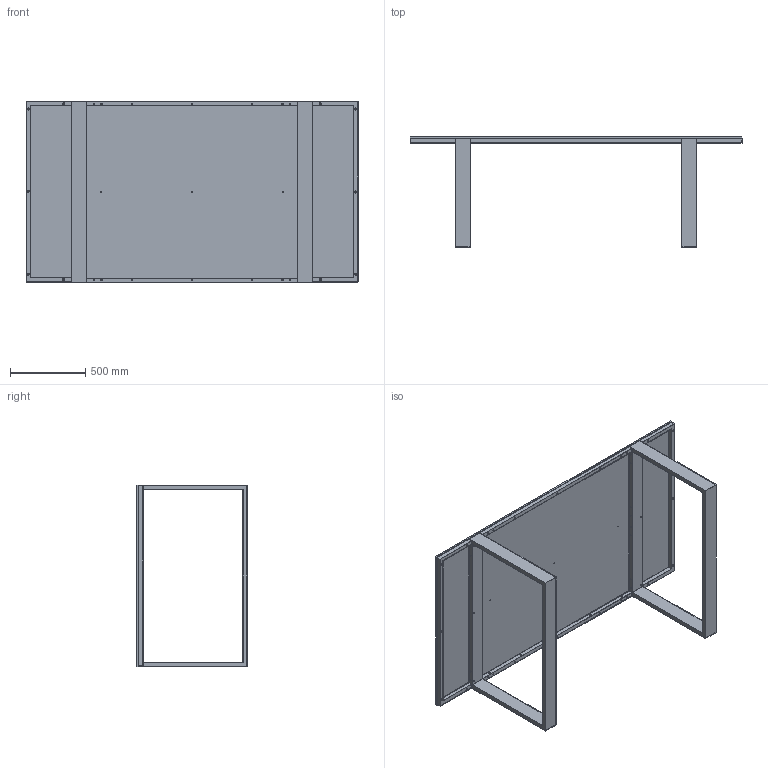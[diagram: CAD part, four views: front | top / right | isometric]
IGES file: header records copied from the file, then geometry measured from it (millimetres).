
Start section: SolidWorks IGES file using NURBS representation for surfaces
Global section: file name: G:\VICCARBE\PRODUCTOS\12-LEG-IN\04-MODELADOS (PLANOS)\SOLIDWORKS\LEG_IN 2011\ENSAMBLAJES\Mesas 3D\IGES\VICCARBE_LEBR220.IGS; native system: SolidWorks 2009; preprocessor: SolidWorks 2009; author: RUBEN; date: 111024.093014; units: millimetre
Bounding box: 2200 x 732 x 1200 mm (x, y, z)
Surface area: 10513024.9 mm2 (no closed solid volume)
Topology: 0 solids, 0 shells, 359 faces, 6456 edges, 6418 vertices
Faces by surface type: bspline 359
